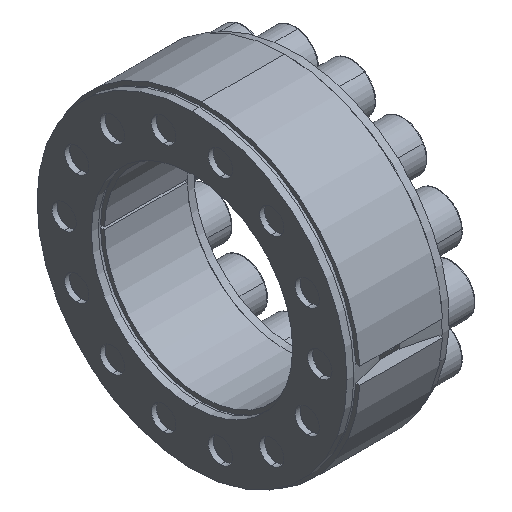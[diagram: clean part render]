
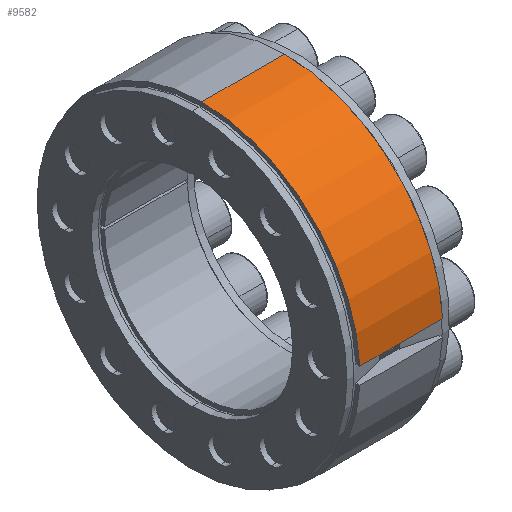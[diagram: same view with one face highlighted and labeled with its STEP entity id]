
A CAD part, isometric view. The second image highlights one B-rep face of the part: STEP entity #9582.
In plain terms, the highlighted cylindrical face has radius 32.5 mm (diameter 65 mm), a partial arc.
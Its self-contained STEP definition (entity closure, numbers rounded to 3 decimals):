
#25 = EDGE_LOOP ( 'NONE', ( #7199, #12921, #7541, #2736 ) ) ;
#486 = EDGE_CURVE ( 'NONE', #7182, #9613, #11399, .T. ) ;
#568 = CARTESIAN_POINT ( 'NONE',  ( 2.07, 0., 0. ) ) ;
#811 = DIRECTION ( 'NONE',  ( -1., 0., 0. ) ) ;
#2349 = LINE ( 'NONE', #7659, #7497 ) ;
#2364 = FACE_OUTER_BOUND ( 'NONE', #25, .T. ) ;
#2376 = DIRECTION ( 'NONE',  ( 0., 0., 1. ) ) ;
#2517 = CARTESIAN_POINT ( 'NONE',  ( 19.07, 0., 32.5 ) ) ;
#2736 = ORIENTED_EDGE ( 'NONE', *, *, #6848, .F. ) ;
#3014 = CARTESIAN_POINT ( 'NONE',  ( 2.07, -32.456, 1.7 ) ) ;
#3511 = CARTESIAN_POINT ( 'NONE',  ( -2.856, -32.456, 1.7 ) ) ;
#5471 = CARTESIAN_POINT ( 'NONE',  ( 19.07, -32.456, 1.7 ) ) ;
#6393 = AXIS2_PLACEMENT_3D ( 'NONE', #10950, #13177, #13234 ) ;
#6848 = EDGE_CURVE ( 'NONE', #8281, #7182, #8078, .T. ) ;
#7182 = VERTEX_POINT ( 'NONE', #3014 ) ;
#7199 = ORIENTED_EDGE ( 'NONE', *, *, #9725, .T. ) ;
#7229 = AXIS2_PLACEMENT_3D ( 'NONE', #568, #14536, #7620 ) ;
#7497 = VECTOR ( 'NONE', #811, 1000. ) ;
#7541 = ORIENTED_EDGE ( 'NONE', *, *, #486, .F. ) ;
#7620 = DIRECTION ( 'NONE',  ( 0., 0., 1. ) ) ;
#7659 = CARTESIAN_POINT ( 'NONE',  ( -2.856, 0., 32.5 ) ) ;
#8078 = LINE ( 'NONE', #3511, #10411 ) ;
#8229 = DIRECTION ( 'NONE',  ( -1., 0., 0. ) ) ;
#8281 = VERTEX_POINT ( 'NONE', #5471 ) ;
#8523 = VERTEX_POINT ( 'NONE', #2517 ) ;
#9134 = CIRCLE ( 'NONE', #6393, 32.5 ) ;
#9375 = DIRECTION ( 'NONE',  ( -1., 0., 0. ) ) ;
#9582 = ADVANCED_FACE ( 'NONE', ( #2364 ), #14578, .T. ) ;
#9613 = VERTEX_POINT ( 'NONE', #12014 ) ;
#9725 = EDGE_CURVE ( 'NONE', #8281, #8523, #9134, .T. ) ;
#10347 = EDGE_CURVE ( 'NONE', #8523, #9613, #2349, .T. ) ;
#10411 = VECTOR ( 'NONE', #8229, 1000. ) ;
#10950 = CARTESIAN_POINT ( 'NONE',  ( 19.07, 0., 0. ) ) ;
#11399 = CIRCLE ( 'NONE', #7229, 32.5 ) ;
#12014 = CARTESIAN_POINT ( 'NONE',  ( 2.07, 0., 32.5 ) ) ;
#12886 = AXIS2_PLACEMENT_3D ( 'NONE', #12922, #9375, #2376 ) ;
#12921 = ORIENTED_EDGE ( 'NONE', *, *, #10347, .T. ) ;
#12922 = CARTESIAN_POINT ( 'NONE',  ( -2.856, 0., 0. ) ) ;
#13177 = DIRECTION ( 'NONE',  ( -1., 0., 0. ) ) ;
#13234 = DIRECTION ( 'NONE',  ( 0., 0., 1. ) ) ;
#14536 = DIRECTION ( 'NONE',  ( -1., 0., 0. ) ) ;
#14578 = CYLINDRICAL_SURFACE ( 'NONE', #12886, 32.5 ) ;
